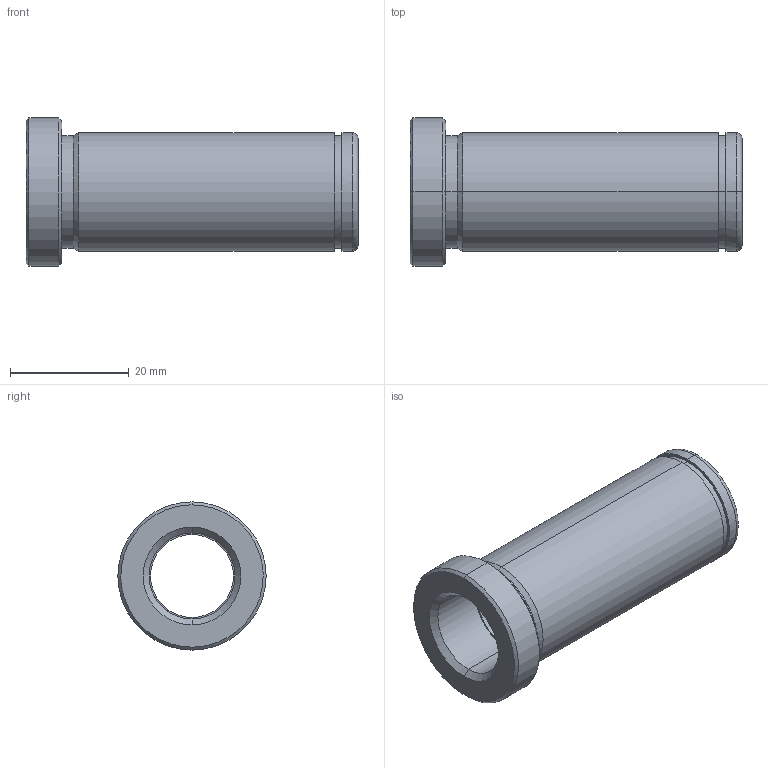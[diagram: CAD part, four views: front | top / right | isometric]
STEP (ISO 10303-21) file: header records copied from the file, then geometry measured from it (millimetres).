
FILE_DESCRIPTION(('CATIA V5 STEP Exchange'),'2;1');
FILE_NAME('C:\Users\Utente\Desktop\IO LAVORO\3D X SITO CF\X SITO\PLASTICA\553\553-14X56.stp','2021-05-21T18:24:05+00:00',('none'),('none'),'CATIA Version 5 Release 20 GA (IN-10)','CATIA V5 STEP AP203','none');
FILE_SCHEMA(('CONFIG_CONTROL_DESIGN'));
Length unit declared in the file: millimetre
Products named in the file (1): 553-14x56
Bounding box: 56 x 25 x 25 mm (x, y, z)
Volume: 9727.6 mm3; surface area: 6727 mm2
Topology: 1 solids, 1 shells, 32 faces, 102 edges, 76 vertices
Faces by surface type: cylinder 14, cone 8, plane 6, torus 4
Entity records: 1334 total; most frequent: CARTESIAN_POINT 389, ORIENTED_EDGE 204, DIRECTION 152, EDGE_CURVE 102, AXIS2_PLACEMENT_3D 99, VERTEX_POINT 76, CIRCLE 66, EDGE_LOOP 38
